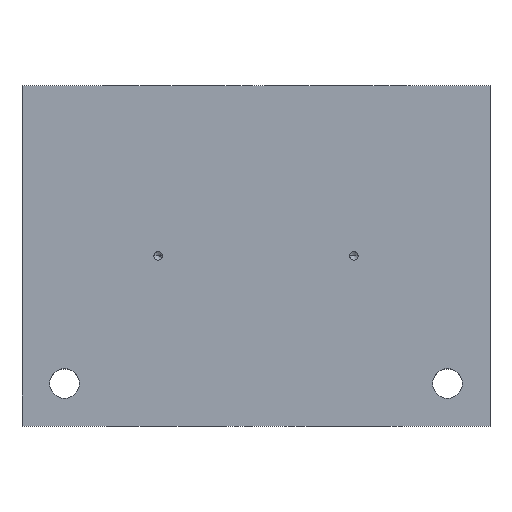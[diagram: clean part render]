
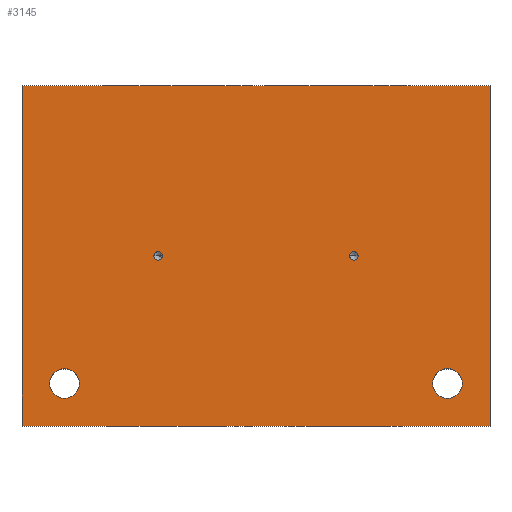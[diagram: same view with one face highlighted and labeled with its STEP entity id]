
A CAD part, top view. The second image highlights one B-rep face of the part: STEP entity #3145.
In plain terms, the highlighted planar face has unit normal (0, 0, 1).
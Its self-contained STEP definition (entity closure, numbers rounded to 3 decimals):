
#42=DIRECTION('',(0.,-1.,0.));
#43=VECTOR('',#42,80.);
#44=CARTESIAN_POINT('',(0.,80.,0.));
#45=LINE('',#44,#43);
#65=DIRECTION('',(1.,0.,0.));
#66=VECTOR('',#65,110.);
#67=CARTESIAN_POINT('',(0.,0.,0.));
#68=LINE('',#67,#66);
#104=DIRECTION('',(1.,0.,0.));
#105=VECTOR('',#104,110.);
#106=CARTESIAN_POINT('',(0.,80.,0.));
#107=LINE('',#106,#105);
#111=CARTESIAN_POINT('',(32.,40.,0.));
#112=DIRECTION('',(0.,0.,1.));
#113=DIRECTION('',(-1.,0.,0.));
#114=AXIS2_PLACEMENT_3D('',#111,#112,#113);
#119=CARTESIAN_POINT('',(32.,40.,0.));
#120=DIRECTION('',(0.,0.,1.));
#121=DIRECTION('',(1.,0.,0.));
#122=AXIS2_PLACEMENT_3D('',#119,#120,#121);
#127=CARTESIAN_POINT('',(78.,40.,0.));
#128=DIRECTION('',(0.,0.,1.));
#129=DIRECTION('',(-1.,0.,0.));
#130=AXIS2_PLACEMENT_3D('',#127,#128,#129);
#135=CARTESIAN_POINT('',(78.,40.,0.));
#136=DIRECTION('',(0.,0.,1.));
#137=DIRECTION('',(1.,0.,0.));
#138=AXIS2_PLACEMENT_3D('',#135,#136,#137);
#143=CARTESIAN_POINT('',(10.,10.,0.));
#144=DIRECTION('',(0.,0.,-1.));
#145=DIRECTION('',(-1.,0.,0.));
#146=AXIS2_PLACEMENT_3D('',#143,#144,#145);
#151=CARTESIAN_POINT('',(10.,10.,0.));
#152=DIRECTION('',(0.,0.,-1.));
#153=DIRECTION('',(1.,0.,0.));
#154=AXIS2_PLACEMENT_3D('',#151,#152,#153);
#159=CARTESIAN_POINT('',(100.,10.,0.));
#160=DIRECTION('',(0.,0.,-1.));
#161=DIRECTION('',(-1.,0.,0.));
#162=AXIS2_PLACEMENT_3D('',#159,#160,#161);
#167=CARTESIAN_POINT('',(100.,10.,0.));
#168=DIRECTION('',(0.,0.,-1.));
#169=DIRECTION('',(1.,0.,0.));
#170=AXIS2_PLACEMENT_3D('',#167,#168,#169);
#260=DIRECTION('',(0.,-1.,0.));
#261=VECTOR('',#260,80.);
#262=CARTESIAN_POINT('',(110.,80.,0.));
#263=LINE('',#262,#261);
#2767=CARTESIAN_POINT('',(0.,0.,0.));
#2769=VERTEX_POINT('',#2767);
#2773=CARTESIAN_POINT('',(0.,80.,0.));
#2774=VERTEX_POINT('',#2773);
#2775=CARTESIAN_POINT('',(110.,0.,0.));
#2777=VERTEX_POINT('',#2775);
#2781=CARTESIAN_POINT('',(110.,80.,0.));
#2782=VERTEX_POINT('',#2781);
#2873=CARTESIAN_POINT('',(31.,40.,0.));
#2874=CARTESIAN_POINT('',(33.,40.,0.));
#2875=VERTEX_POINT('',#2873);
#2876=VERTEX_POINT('',#2874);
#2883=CARTESIAN_POINT('',(77.,40.,0.));
#2884=CARTESIAN_POINT('',(79.,40.,0.));
#2885=VERTEX_POINT('',#2883);
#2886=VERTEX_POINT('',#2884);
#2891=CARTESIAN_POINT('',(6.5,10.,0.));
#2892=CARTESIAN_POINT('',(13.5,10.,0.));
#2893=VERTEX_POINT('',#2891);
#2894=VERTEX_POINT('',#2892);
#2899=CARTESIAN_POINT('',(96.5,10.,0.));
#2900=CARTESIAN_POINT('',(103.5,10.,0.));
#2901=VERTEX_POINT('',#2899);
#2902=VERTEX_POINT('',#2900);
#3108=CARTESIAN_POINT('',(0.,80.,0.));
#3109=DIRECTION('',(0.,0.,1.));
#3110=DIRECTION('',(0.,-1.,0.));
#3111=AXIS2_PLACEMENT_3D('',#3108,#3109,#3110);
#3112=PLANE('',#3111);
#3113=ORIENTED_EDGE('',*,*,#3046,.F.);
#3115=ORIENTED_EDGE('',*,*,#3114,.T.);
#3117=ORIENTED_EDGE('',*,*,#3116,.T.);
#3118=ORIENTED_EDGE('',*,*,#3075,.F.);
#3119=EDGE_LOOP('',(#3113,#3115,#3117,#3118));
#3120=FACE_OUTER_BOUND('',#3119,.F.);
#3122=ORIENTED_EDGE('',*,*,#3121,.T.);
#3124=ORIENTED_EDGE('',*,*,#3123,.T.);
#3125=EDGE_LOOP('',(#3122,#3124));
#3126=FACE_BOUND('',#3125,.F.);
#3128=ORIENTED_EDGE('',*,*,#3127,.T.);
#3130=ORIENTED_EDGE('',*,*,#3129,.T.);
#3131=EDGE_LOOP('',(#3128,#3130));
#3132=FACE_BOUND('',#3131,.F.);
#3134=ORIENTED_EDGE('',*,*,#3133,.F.);
#3136=ORIENTED_EDGE('',*,*,#3135,.F.);
#3137=EDGE_LOOP('',(#3134,#3136));
#3138=FACE_BOUND('',#3137,.F.);
#3140=ORIENTED_EDGE('',*,*,#3139,.F.);
#3142=ORIENTED_EDGE('',*,*,#3141,.F.);
#3143=EDGE_LOOP('',(#3140,#3142));
#3144=FACE_BOUND('',#3143,.F.);
#115=CIRCLE('',#114,1.);
#123=CIRCLE('',#122,1.);
#131=CIRCLE('',#130,1.);
#139=CIRCLE('',#138,1.);
#147=CIRCLE('',#146,3.5);
#155=CIRCLE('',#154,3.5);
#163=CIRCLE('',#162,3.5);
#171=CIRCLE('',#170,3.5);
#3046=EDGE_CURVE('',#2774,#2769,#45,.T.);
#3075=EDGE_CURVE('',#2769,#2777,#68,.T.);
#3114=EDGE_CURVE('',#2774,#2782,#107,.T.);
#3116=EDGE_CURVE('',#2782,#2777,#263,.T.);
#3121=EDGE_CURVE('',#2875,#2876,#115,.T.);
#3123=EDGE_CURVE('',#2876,#2875,#123,.T.);
#3127=EDGE_CURVE('',#2885,#2886,#131,.T.);
#3129=EDGE_CURVE('',#2886,#2885,#139,.T.);
#3133=EDGE_CURVE('',#2893,#2894,#147,.T.);
#3135=EDGE_CURVE('',#2894,#2893,#155,.T.);
#3139=EDGE_CURVE('',#2901,#2902,#163,.T.);
#3141=EDGE_CURVE('',#2902,#2901,#171,.T.);
#3145=ADVANCED_FACE('',(#3120,#3126,#3132,#3138,#3144),#3112,.T.);
